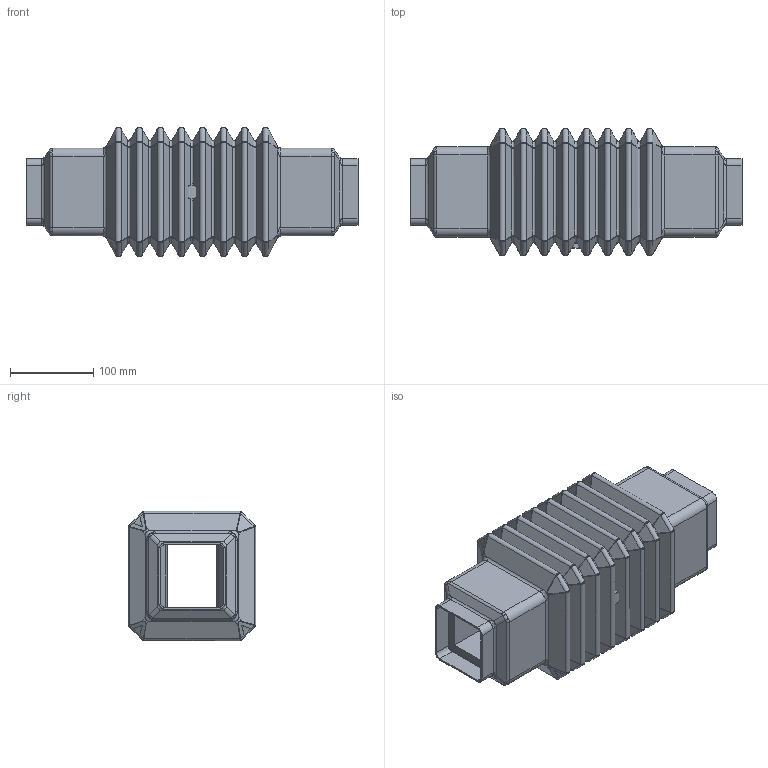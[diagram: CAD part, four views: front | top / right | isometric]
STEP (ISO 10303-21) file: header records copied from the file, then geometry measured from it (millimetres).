
FILE_DESCRIPTION((''),'2;1');
FILE_NAME('ZWISCHENG_CS-2000_ASM','2010-10-06T',('M.Fehring'),(''),'PRO/ENGINEER BY PARAMETRIC TECHNOLOGY CORPORATION, 2005070','PRO/ENGINEER BY PARAMETRIC TECHNOLOGY CORPORATION, 2005070','');
FILE_SCHEMA(('AUTOMOTIVE_DESIGN_CC2 { 1 2 10303 214 -1 1 5 2 }'));
Length unit declared in the file: millimetre
Products named in the file (12): KLAUE_80_1; KLAUE_80_2; E_1492; E-1409_1; E-1303; E_1410_1; SCHEIBE_DIN_125; SKT_SCHR_DIN_EN_24017; KERBSTIFT_DIN_EN_28745; GEWINDESTIFT_DIN_916; 9231608000; ZWISCHENG_CS-2000_ASM
Assembly tree (23 placements, depth 2):
  ZWISCHENG_CS-2000_ASM
    KLAUE_80_1
    KLAUE_80_2
    E_1492  x2
    E-1409_1
    E-1303
    E_1410_1
    SCHEIBE_DIN_125
    SKT_SCHR_DIN_EN_24017
    KERBSTIFT_DIN_EN_28745
    GEWINDESTIFT_DIN_916  x12
    9231608000
Bounding box: 400 x 154 x 156 mm (x, y, z)
Volume: 1644226.2 mm3; surface area: 801744 mm2
Topology: 23 solids, 23 shells, 1540 faces, 3493 edges, 1985 vertices
Faces by surface type: cylinder 596, plane 505, bspline 315, cone 94, torus 26, sphere 4
Entity records: 60504 total; most frequent: CARTESIAN_POINT 23464, ORIENTED_EDGE 6154, DIRECTION 4924, PRESENTATION_STYLE_ASSIGNMENT 3088, STYLED_ITEM 3088, CURVE_STYLE 3077, EDGE_CURVE 3077, AXIS2_PLACEMENT_3D 1752
